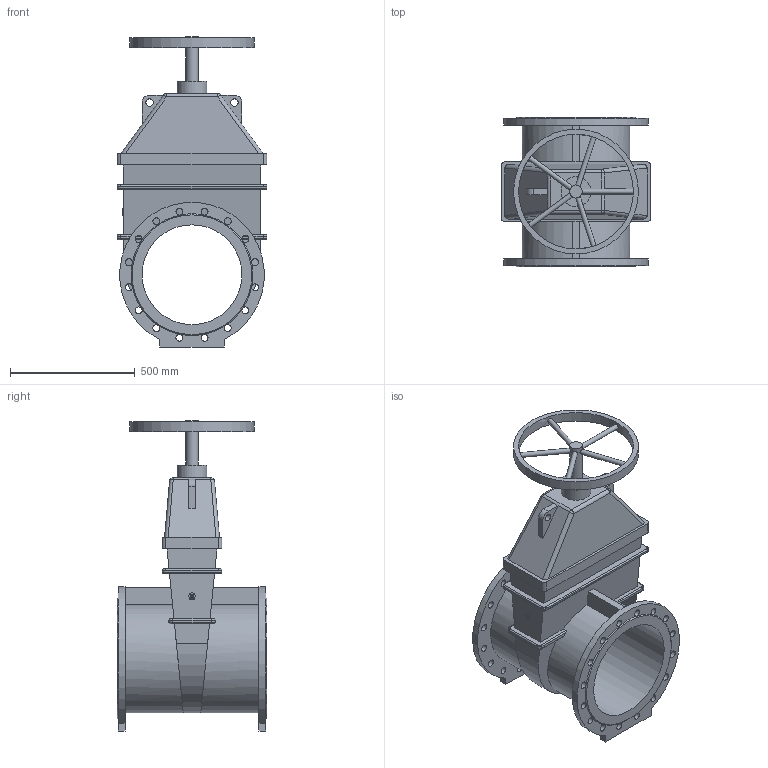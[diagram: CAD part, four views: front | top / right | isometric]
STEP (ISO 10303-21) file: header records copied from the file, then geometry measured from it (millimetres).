
FILE_DESCRIPTION(('STEP AP203'), '1');
FILE_NAME('Çàäâèæêà 47GV DN400 PN10_L600 ñ ìàõîâèêîì', '', ('UNSPECIFIED'), ('UNSPECIFIED'), 'ASCON STEP Converter 1.6', 'ASCON Math Kernel', '');
FILE_SCHEMA(('CONFIG_CONTROL_DESIGN'));
Length unit declared in the file: millimetre
Bounding box: 600 x 600 x 1243 mm (x, y, z)
Volume: 78776437.7 mm3; surface area: 3505842.7 mm2
Topology: 1 solids, 1 shells, 201 faces, 609 edges, 388 vertices
Faces by surface type: cylinder 98, plane 81, bspline 12, torus 8, cone 2
Full cylindrical faces by diameter (mm): 20 x5, 28 x32, 30 x2, 50 x1, 120 x1, 400 x1, 460 x1, 500 x1
Entity records: 12060 total; most frequent: CARTESIAN_POINT 5058, ORIENTED_EDGE 1116, DIRECTION 1084, EDGE_CURVE 558, AXIS2_PLACEMENT_3D 428, VERTEX_POINT 388, EDGE_LOOP 310, FACE_BOUND 253
